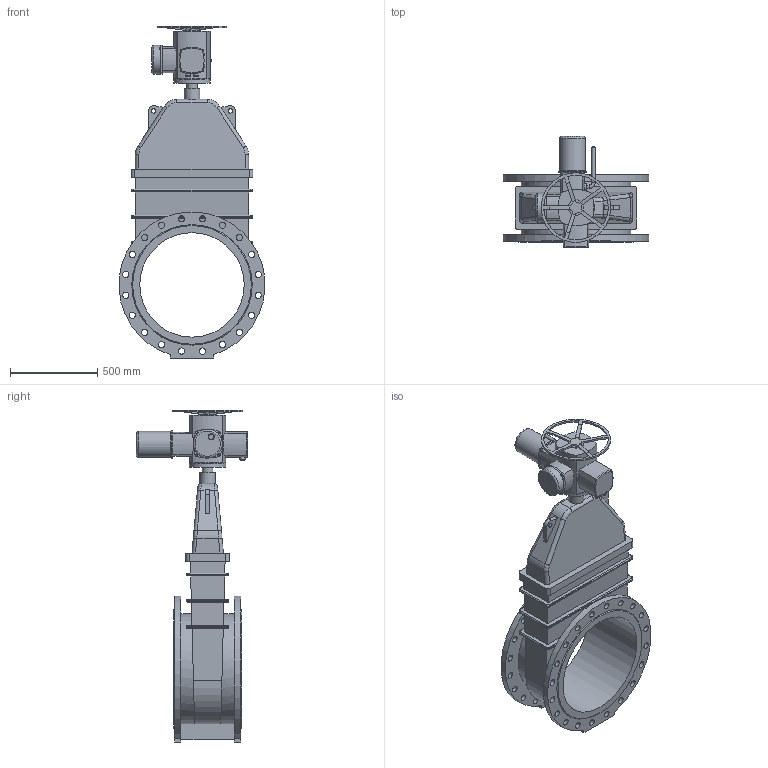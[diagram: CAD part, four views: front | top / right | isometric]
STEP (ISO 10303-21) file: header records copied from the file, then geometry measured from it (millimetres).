
FILE_DESCRIPTION(('STEP AP203'), '1');
FILE_NAME('青溻桄赅 47GVA DN600 PN16+MT903.Z60', '', ('UNSPECIFIED'), ('UNSPECIFIED'), 'ASCON STEP Converter 1.6', 'ASCON Math Kernel', '');
FILE_SCHEMA(('CONFIG_CONTROL_DESIGN'));
Length unit declared in the file: millimetre
Bounding box: 838.28 x 640 x 1908 mm (x, y, z)
Volume: 142860948.2 mm3; surface area: 5133620.6 mm2
Topology: 2 solids, 2 shells, 411 faces, 1014 edges, 642 vertices
Faces by surface type: cylinder 190, plane 161, bspline 34, torus 19, cone 7
Full cylindrical faces by diameter (mm): 12 x8, 17.294 x4, 20 x2, 22 x4, 25 x2, 29.22 x1, 30 x2, 36 x41, 40 x1, 48 x1, 60 x1, 90 x2, 130 x2, 150 x1, 165 x1, 210 x2, 400 x1, 600 x1
Entity records: 19978 total; most frequent: CARTESIAN_POINT 7260, DIRECTION 1909, ORIENTED_EDGE 1816, EDGE_CURVE 908, AXIS2_PLACEMENT_3D 745, EDGE_LOOP 650, VERTEX_POINT 636, FACE_BOUND 457
